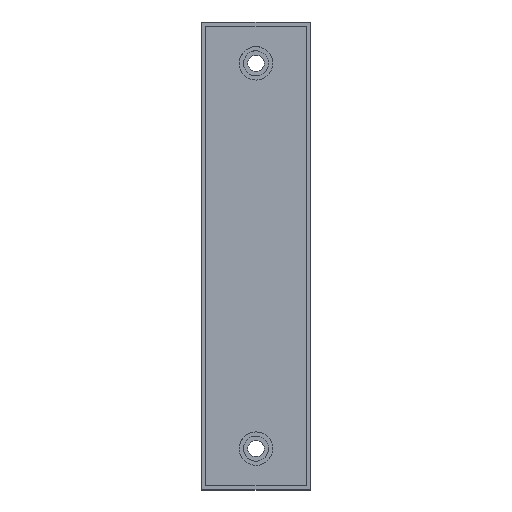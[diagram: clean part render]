
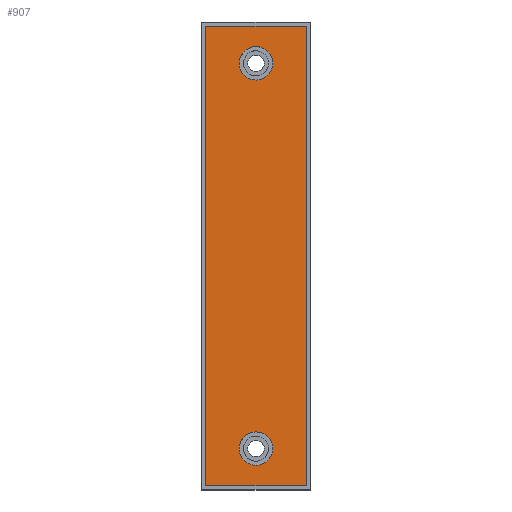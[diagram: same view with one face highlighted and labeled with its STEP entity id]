
A CAD part, top view. The second image highlights one B-rep face of the part: STEP entity #907.
In plain terms, the highlighted free-form (B-spline) face has degree [1, 1] with [2, 2] control points.
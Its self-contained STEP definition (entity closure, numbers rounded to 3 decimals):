
#319=CARTESIAN_POINT('',(6.5,-75.,7.325));
#320=VERTEX_POINT('',#319);
#321=CARTESIAN_POINT('',(-6.5,-75.,7.325));
#322=VERTEX_POINT('',#321);
#323=CARTESIAN_POINT('',(6.5,-75.,7.325));
#324=CARTESIAN_POINT('',(6.5,-68.5,7.325));
#325=CARTESIAN_POINT('',(0.,-68.5,7.325));
#326=CARTESIAN_POINT('',(-6.5,-68.5,7.325));
#327=CARTESIAN_POINT('',(-6.5,-75.,7.325));
#328=(BOUNDED_CURVE()B_SPLINE_CURVE(2,(#323,#324,#325,#326,#327),.CIRCULAR_ARC.,.F.,.U.)B_SPLINE_CURVE_WITH_KNOTS((3,2,3),(0.,0.5,1.),.UNSPECIFIED.)CURVE()GEOMETRIC_REPRESENTATION_ITEM()RATIONAL_B_SPLINE_CURVE((1.,0.707,1.,0.707,1.))REPRESENTATION_ITEM(''));
#329=EDGE_CURVE('',#320,#322,#328,.T.);
#367=CARTESIAN_POINT('',(6.5,75.,7.325));
#368=VERTEX_POINT('',#367);
#369=CARTESIAN_POINT('',(-6.5,75.,7.325));
#370=VERTEX_POINT('',#369);
#371=CARTESIAN_POINT('',(6.5,75.,7.325));
#372=CARTESIAN_POINT('',(6.5,81.5,7.325));
#373=CARTESIAN_POINT('',(0.,81.5,7.325));
#374=CARTESIAN_POINT('',(-6.5,81.5,7.325));
#375=CARTESIAN_POINT('',(-6.5,75.,7.325));
#376=(BOUNDED_CURVE()B_SPLINE_CURVE(2,(#371,#372,#373,#374,#375),.CIRCULAR_ARC.,.F.,.U.)B_SPLINE_CURVE_WITH_KNOTS((3,2,3),(0.,0.5,1.),.UNSPECIFIED.)CURVE()GEOMETRIC_REPRESENTATION_ITEM()RATIONAL_B_SPLINE_CURVE((1.,0.707,1.,0.707,1.))REPRESENTATION_ITEM(''));
#377=EDGE_CURVE('',#368,#370,#376,.T.);
#792=CARTESIAN_POINT('',(-19.5,-89.5,7.325));
#793=VERTEX_POINT('',#792);
#799=CARTESIAN_POINT('',(-19.5,89.5,7.325));
#800=VERTEX_POINT('',#799);
#801=CARTESIAN_POINT('',(-19.5,-89.5,7.325));
#802=CARTESIAN_POINT('',(-19.5,89.5,7.325));
#803=B_SPLINE_CURVE_WITH_KNOTS('',1,(#801,#802),.POLYLINE_FORM.,.F.,.U.,(2,2),(0.,1.),.UNSPECIFIED.);
#804=EDGE_CURVE('',#793,#800,#803,.T.);
#821=CARTESIAN_POINT('',(19.5,89.5,7.325));
#822=VERTEX_POINT('',#821);
#823=CARTESIAN_POINT('',(-19.5,89.5,7.325));
#824=CARTESIAN_POINT('',(19.5,89.5,7.325));
#825=B_SPLINE_CURVE_WITH_KNOTS('',1,(#823,#824),.POLYLINE_FORM.,.F.,.U.,(2,2),(0.,1.),.UNSPECIFIED.);
#826=EDGE_CURVE('',#800,#822,#825,.T.);
#843=CARTESIAN_POINT('',(19.5,-89.5,7.325));
#844=VERTEX_POINT('',#843);
#845=CARTESIAN_POINT('',(19.5,89.5,7.325));
#846=CARTESIAN_POINT('',(19.5,-89.5,7.325));
#847=B_SPLINE_CURVE_WITH_KNOTS('',1,(#845,#846),.POLYLINE_FORM.,.F.,.U.,(2,2),(0.,1.),.UNSPECIFIED.);
#848=EDGE_CURVE('',#822,#844,#847,.T.);
#865=CARTESIAN_POINT('',(19.5,-89.5,7.325));
#866=CARTESIAN_POINT('',(-19.5,-89.5,7.325));
#867=B_SPLINE_CURVE_WITH_KNOTS('',1,(#865,#866),.POLYLINE_FORM.,.F.,.U.,(2,2),(0.,1.),.UNSPECIFIED.);
#868=EDGE_CURVE('',#844,#793,#867,.T.);
#874=CARTESIAN_POINT('',(-294.299,-364.299,7.325));
#875=CARTESIAN_POINT('',(-294.299,185.299,7.325));
#876=CARTESIAN_POINT('',(255.299,-364.299,7.325));
#877=CARTESIAN_POINT('',(255.299,185.299,7.325));
#878=B_SPLINE_SURFACE_WITH_KNOTS('',1,1,((#874,#875),(#876,#877)),.PLANE_SURF.,.F.,.F.,.U.,(2,2),(2,2),(0.,1.),(0.,1.),.UNSPECIFIED.);
#879=ORIENTED_EDGE('',*,*,#804,.F.);
#880=ORIENTED_EDGE('',*,*,#868,.F.);
#881=ORIENTED_EDGE('',*,*,#848,.F.);
#882=ORIENTED_EDGE('',*,*,#826,.F.);
#883=EDGE_LOOP('',(#879,#880,#881,#882));
#884=FACE_OUTER_BOUND('',#883,.T.);
#885=ORIENTED_EDGE('',*,*,#377,.F.);
#886=CARTESIAN_POINT('',(6.5,75.,7.325));
#887=CARTESIAN_POINT('',(6.5,68.5,7.325));
#888=CARTESIAN_POINT('',(0.,68.5,7.325));
#889=CARTESIAN_POINT('',(-6.5,68.5,7.325));
#890=CARTESIAN_POINT('',(-6.5,75.,7.325));
#891=(BOUNDED_CURVE()B_SPLINE_CURVE(2,(#886,#887,#888,#889,#890),.CIRCULAR_ARC.,.F.,.U.)B_SPLINE_CURVE_WITH_KNOTS((3,2,3),(0.,0.5,1.),.UNSPECIFIED.)CURVE()GEOMETRIC_REPRESENTATION_ITEM()RATIONAL_B_SPLINE_CURVE((1.,0.707,1.,0.707,1.))REPRESENTATION_ITEM(''));
#892=EDGE_CURVE('',#368,#370,#891,.T.);
#893=ORIENTED_EDGE('',*,*,#892,.T.);
#894=EDGE_LOOP('',(#885,#893));
#895=FACE_BOUND('',#894,.T.);
#896=ORIENTED_EDGE('',*,*,#329,.F.);
#897=CARTESIAN_POINT('',(6.5,-75.,7.325));
#898=CARTESIAN_POINT('',(6.5,-81.5,7.325));
#899=CARTESIAN_POINT('',(0.,-81.5,7.325));
#900=CARTESIAN_POINT('',(-6.5,-81.5,7.325));
#901=CARTESIAN_POINT('',(-6.5,-75.,7.325));
#902=(BOUNDED_CURVE()B_SPLINE_CURVE(2,(#897,#898,#899,#900,#901),.CIRCULAR_ARC.,.F.,.U.)B_SPLINE_CURVE_WITH_KNOTS((3,2,3),(0.,0.5,1.),.UNSPECIFIED.)CURVE()GEOMETRIC_REPRESENTATION_ITEM()RATIONAL_B_SPLINE_CURVE((1.,0.707,1.,0.707,1.))REPRESENTATION_ITEM(''));
#903=EDGE_CURVE('',#320,#322,#902,.T.);
#904=ORIENTED_EDGE('',*,*,#903,.T.);
#905=EDGE_LOOP('',(#896,#904));
#906=FACE_BOUND('',#905,.T.);
#907=ADVANCED_FACE('',(#884,#895,#906),#878,.T.);
